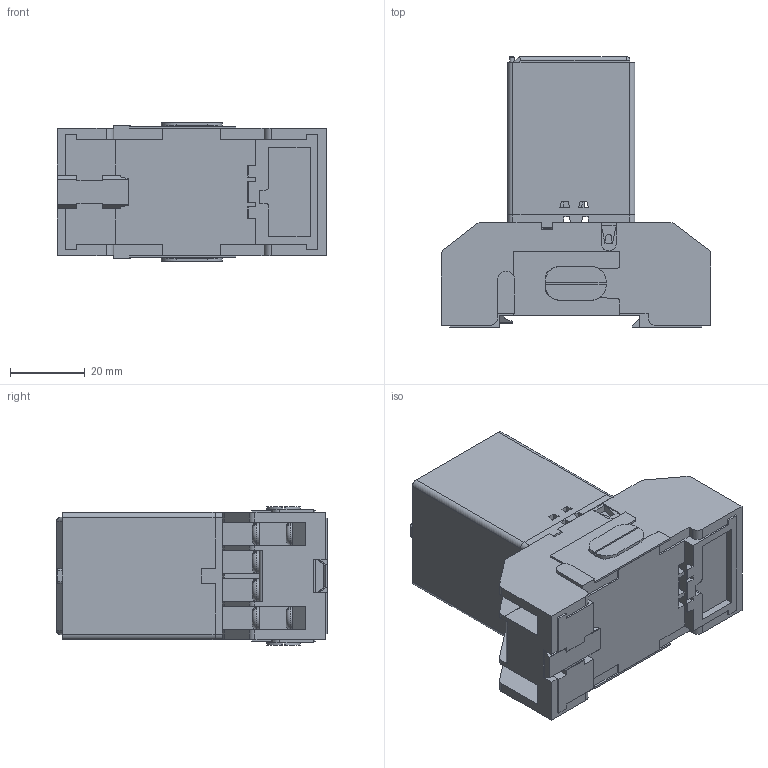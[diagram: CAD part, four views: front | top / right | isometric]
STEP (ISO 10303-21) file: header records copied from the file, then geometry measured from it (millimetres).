
FILE_DESCRIPTION(('STEP AP214'), '1');
FILE_NAME('Êîëîäêà ÐÏ21-004 òèï 2', '', ('UNSPECIFIED'), ('UNSPECIFIED'), 'ASCON STEP Converter 1.6', 'ASCON Math Kernel', '');
FILE_SCHEMA(('AUTOMOTIVE_DESIGN { 1 0 10303 214 3 1 1}'));
Length unit declared in the file: millimetre
Assembly tree (21 placements, depth 3):
  (unnamed)
    (unnamed)
    (unnamed)  x2
    (unnamed)
    (unnamed)  x14
      (unnamed)
      (unnamed)
    (unnamed)
Bounding box: 72.1 x 72.3 x 37 mm (x, y, z)
Volume: 64050.9 mm3; surface area: 39636.3 mm2
Topology: 50 solids, 50 shells, 1641 faces, 4380 edges, 2880 vertices
Faces by surface type: plane 1335, cylinder 270, torus 16, cone 16, bspline 2, sphere 2
Full cylindrical faces by diameter (mm): 1 x6, 2.5 x2, 2.85 x14, 2.9 x2, 3 x14, 3.2 x1, 4.5 x2, 6 x16
Entity records: 56203 total; most frequent: CARTESIAN_POINT 8036, ORIENTED_EDGE 7683, DIRECTION 7137, EDGE_CURVE 3843, LINE 3353, VECTOR 3353, VERTEX_POINT 2545, AXIS2_PLACEMENT_3D 1892
